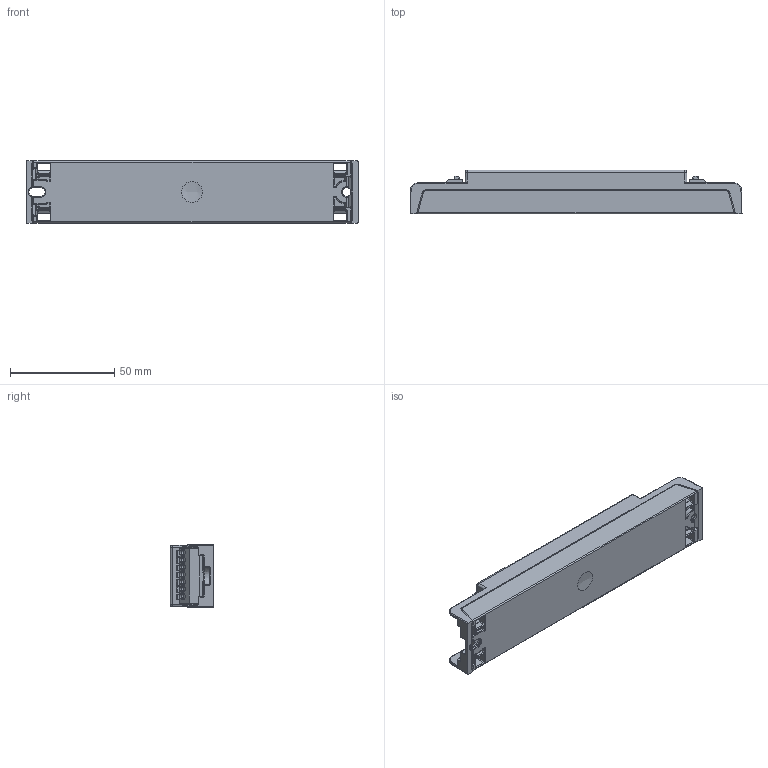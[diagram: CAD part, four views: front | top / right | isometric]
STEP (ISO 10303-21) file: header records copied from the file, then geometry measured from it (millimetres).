
FILE_DESCRIPTION((''),'2;1');
FILE_NAME('15010723Z','2016-08-26T',('Arbeitsplatz 03'),(''),'PRO/ENGINEER BY PARAMETRIC TECHNOLOGY CORPORATION, 2013410','PRO/ENGINEER BY PARAMETRIC TECHNOLOGY CORPORATION, 2013410','');
FILE_SCHEMA(('AUTOMOTIVE_DESIGN { 1 0 10303 214 1 1 1 1 }'));
Products named in the file (1): 15010723Z
Bounding box: 159 x 21 x 30 mm (x, y, z)
Volume: 27824.3 mm3; surface area: 43830.1 mm2
Topology: 1 solids, 1 shells, 2240 faces, 6551 edges, 4225 vertices
Faces by surface type: plane 1067, cylinder 948, bspline 93, sphere 54, cone 41, torus 37
Entity records: 99605 total; most frequent: CARTESIAN_POINT 19463, ORIENTED_EDGE 13002, DIRECTION 11976, PRESENTATION_STYLE_ASSIGNMENT 6502, STYLED_ITEM 6502, CURVE_STYLE 6501, EDGE_CURVE 6501, VERTEX_POINT 4225
